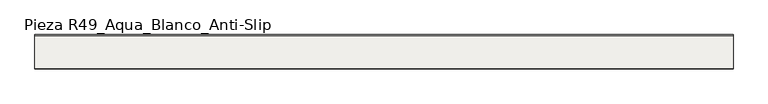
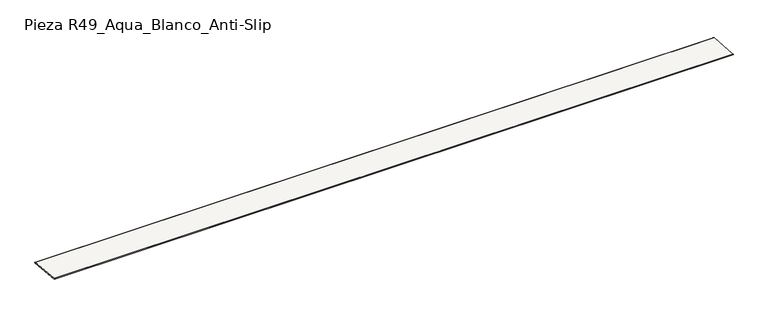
"""IFC4 building model written with IfcOpenShell, lengths in millimetres: slab geometry, ROSA GRES_R49 : Pieza R49_Aqua_Blanco_Anti-Slip."""

from ifc_helpers import new_model, si_unit, point, frame, frame_2d, origin, place, context, project, spatial, polyline, circle_curve, trimmed, segment, composite_curve, outline, extrude, source, transform, mapped, element, save


def pieza_r49_aqua_blanco_anti_slip_3c1201e6(model_context):
    return source(origin(), model_context, "Body", "SweptSolid", [
        extrude(outline(composite_curve([segment(polyline([(-70.1539646, 196.3880826), (-366.1749837, 220.4828167), (-365.5494776, 228.1676059)]), True, "CONTINUOUS"), segment(trimmed(circle_curve(frame_2d((-364.7862135, 226.9789488)), 1.4126139), [point((-365.5494776, 228.1676059))], [point((-364.6716123, 228.3869063))], False, "CARTESIAN"), True, "CONTINUOUS"), segment(polyline([(-364.6716123, 228.3869063), (-76.6234074, 204.9411222)]), True, "CONTINUOUS"), segment(trimmed(circle_curve(frame_2d((-77.8482549, 197.189121)), 7.8481701), [point((-76.6234074, 204.9411222))], [point((-70.0315861, 197.89159))], False, "CARTESIAN"), True, "CONTINUOUS"), segment(polyline([(-70.0315861, 197.89159), (-70.1539646, 196.3880826)]), True, "CONTINUOUS")], self_intersect=False)), frame((0.0, 0.0, 0.0), z_axis=(1.0, 0.0, 0.0), x_axis=(0.0, 1.0, 0.0)), (0.0, 0.0, 1.0), 5995.75),
    ])


if __name__ == "__main__":
    model = new_model("IFC4")
    model_context = context("Model", 3, world=origin())
    ifc_project = project(units=[si_unit("LENGTHUNIT", "METRE", prefix="MILLI")], contexts=[model_context])
    site = spatial("IfcSite", under=ifc_project)
    building = spatial("IfcBuilding", under=site)
    placement = place(None, origin())
    pieza_r49_aqua_blanco_anti_slip_shape = pieza_r49_aqua_blanco_anti_slip_3c1201e6(model_context)
    element("IfcSlab", 1, ObjectType="ROSA GRES_R49 : Pieza R49_Aqua_Blanco_Anti-Slip", at=placement, inside=building, context=model_context, shape_type="MappedRepresentation", body=[
        mapped(pieza_r49_aqua_blanco_anti_slip_shape, transform((0.0, 0.0, 0.0), x_axis=(1.0, 0.0, 0.0), y_axis=(0.0, 1.0, 0.0), z_axis=(0.0, 0.0, 1.0))),
    ])
    save(model, "model.ifc")
